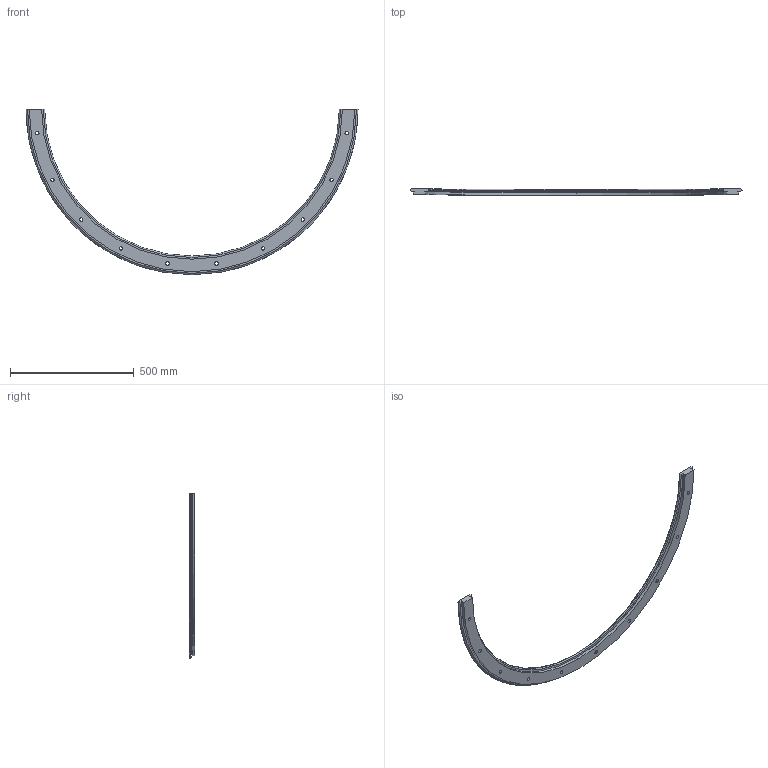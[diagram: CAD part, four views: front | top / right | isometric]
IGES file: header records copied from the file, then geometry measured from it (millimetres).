
Start section: 3D InterOp IGES (v. 2020 1.0.1), Spatial Corp. Copyright (c) 1999-2017.
Global section: file name: r76_1267_r180.igs; native system: Spatial Corp.; preprocessor: 3D InterOp ACIS/IGES; author: TraceParts; organization: TraceParts S.A.; date: 20210503.103810; units: millimetre
Bounding box: 1342.6 x 24 x 669.3 mm (x, y, z)
Surface area: 415724.7 mm2 (no closed solid volume)
Topology: 0 solids, 0 shells, 82 faces, 408 edges, 408 vertices
Faces by surface type: revolution 64, extrusion 18
